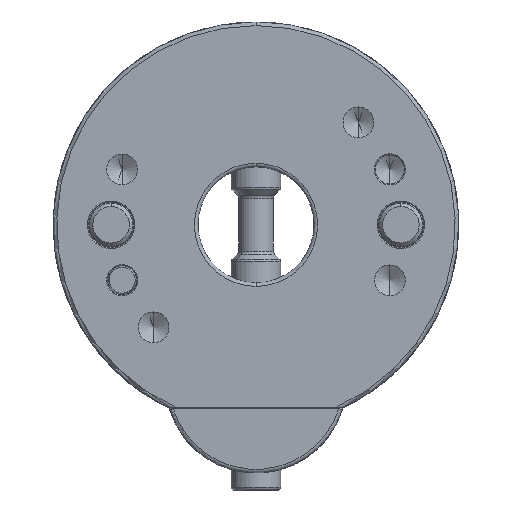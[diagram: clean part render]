
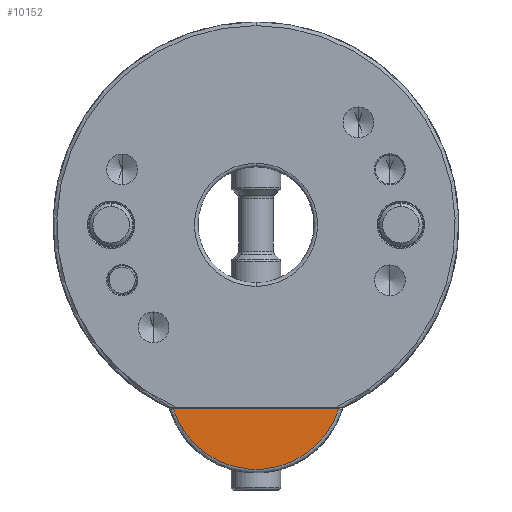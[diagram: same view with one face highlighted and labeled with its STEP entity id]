
A CAD part, front view. The second image highlights one B-rep face of the part: STEP entity #10152.
In plain terms, the highlighted planar face has unit normal (0, -1, 0).
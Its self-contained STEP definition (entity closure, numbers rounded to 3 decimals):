
#1838 = FACE_OUTER_BOUND ( 'NONE', #25074, .T. ) ;
#1991 = LINE ( 'NONE', #35196, #37046 ) ;
#2299 = DIRECTION ( 'NONE',  ( 0., 0., 1. ) ) ;
#6050 = CARTESIAN_POINT ( 'NONE',  ( 51.083, 9.438, 87.2 ) ) ;
#6272 = EDGE_CURVE ( 'NONE', #25200, #16323, #25433, .T. ) ;
#6776 = DIRECTION ( 'NONE',  ( 0., 0., 1. ) ) ;
#8747 = EDGE_CURVE ( 'NONE', #16323, #25200, #1991, .T. ) ;
#9276 = DIRECTION ( 'NONE',  ( 0., -1., 0. ) ) ;
#10152 = ADVANCED_FACE ( 'NONE', ( #1838 ), #12543, .T. ) ;
#12118 = AXIS2_PLACEMENT_3D ( 'NONE', #35812, #19262, #2299 ) ;
#12543 = PLANE ( 'NONE',  #12118 ) ;
#16323 = VERTEX_POINT ( 'NONE', #6050 ) ;
#19262 = DIRECTION ( 'NONE',  ( 0., -1., 0. ) ) ;
#24550 = ORIENTED_EDGE ( 'NONE', *, *, #6272, .T. ) ;
#24725 = AXIS2_PLACEMENT_3D ( 'NONE', #40611, #9276, #6776 ) ;
#25074 = EDGE_LOOP ( 'NONE', ( #24550, #25960 ) ) ;
#25200 = VERTEX_POINT ( 'NONE', #32759 ) ;
#25433 = CIRCLE ( 'NONE', #24725, 24. ) ;
#25960 = ORIENTED_EDGE ( 'NONE', *, *, #8747, .T. ) ;
#31960 = DIRECTION ( 'NONE',  ( -1., 0., 0. ) ) ;
#32759 = CARTESIAN_POINT ( 'NONE',  ( 5.358, 9.438, 87.2 ) ) ;
#35196 = CARTESIAN_POINT ( 'NONE',  ( 5.264, 9.438, 87.2 ) ) ;
#35812 = CARTESIAN_POINT ( 'NONE',  ( 28.22, 9.438, 94.5 ) ) ;
#37046 = VECTOR ( 'NONE', #31960, 1000. ) ;
#40611 = CARTESIAN_POINT ( 'NONE',  ( 28.22, 9.438, 94.5 ) ) ;
